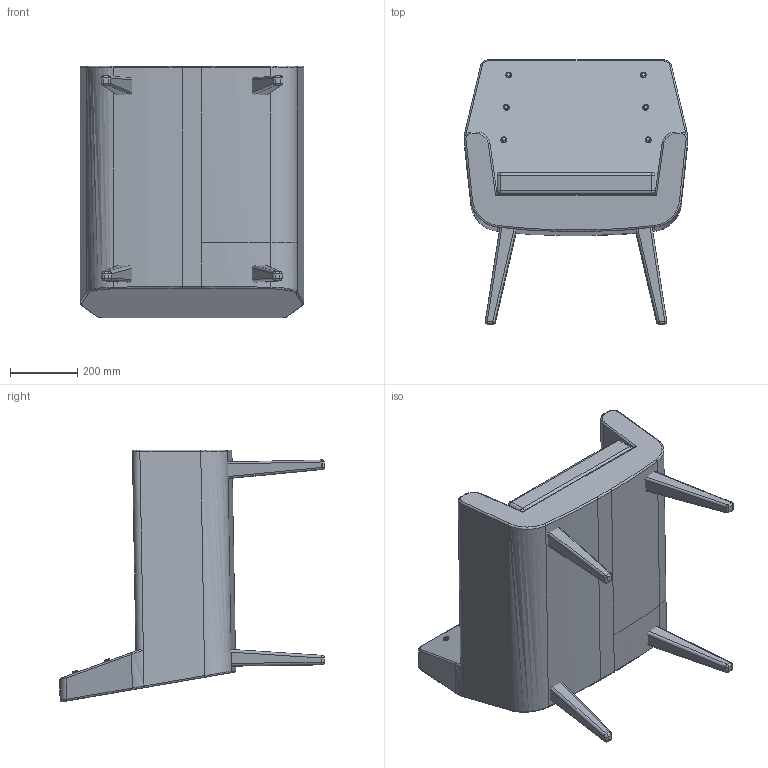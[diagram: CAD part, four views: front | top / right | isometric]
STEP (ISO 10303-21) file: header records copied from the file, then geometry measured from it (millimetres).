
FILE_DESCRIPTION (( 'STEP AP203' ), '1' );
FILE_NAME ('Thera.STEP', '2016-01-12T17:21:44', ( '' ), ( '' ), 'SwSTEP 2.0', 'SolidWorks 2015', '' );
FILE_SCHEMA (( 'CONFIG_CONTROL_DESIGN' ));
Length unit declared in the file: millimetre
Products named in the file (1): Thera
Bounding box: 666.02 x 787.23 x 748.97 mm (x, y, z)
Volume: 103847626.3 mm3; surface area: 2801862.2 mm2
Topology: 12 solids, 12 shells, 217 faces, 472 edges, 259 vertices
Faces by surface type: cylinder 89, plane 56, sphere 32, bspline 28, torus 12
Entity records: 6717 total; most frequent: CARTESIAN_POINT 2251, DIRECTION 948, ORIENTED_EDGE 896, EDGE_CURVE 448, AXIS2_PLACEMENT_3D 378, VERTEX_POINT 255, ADVANCED_FACE 217, EDGE_LOOP 217
